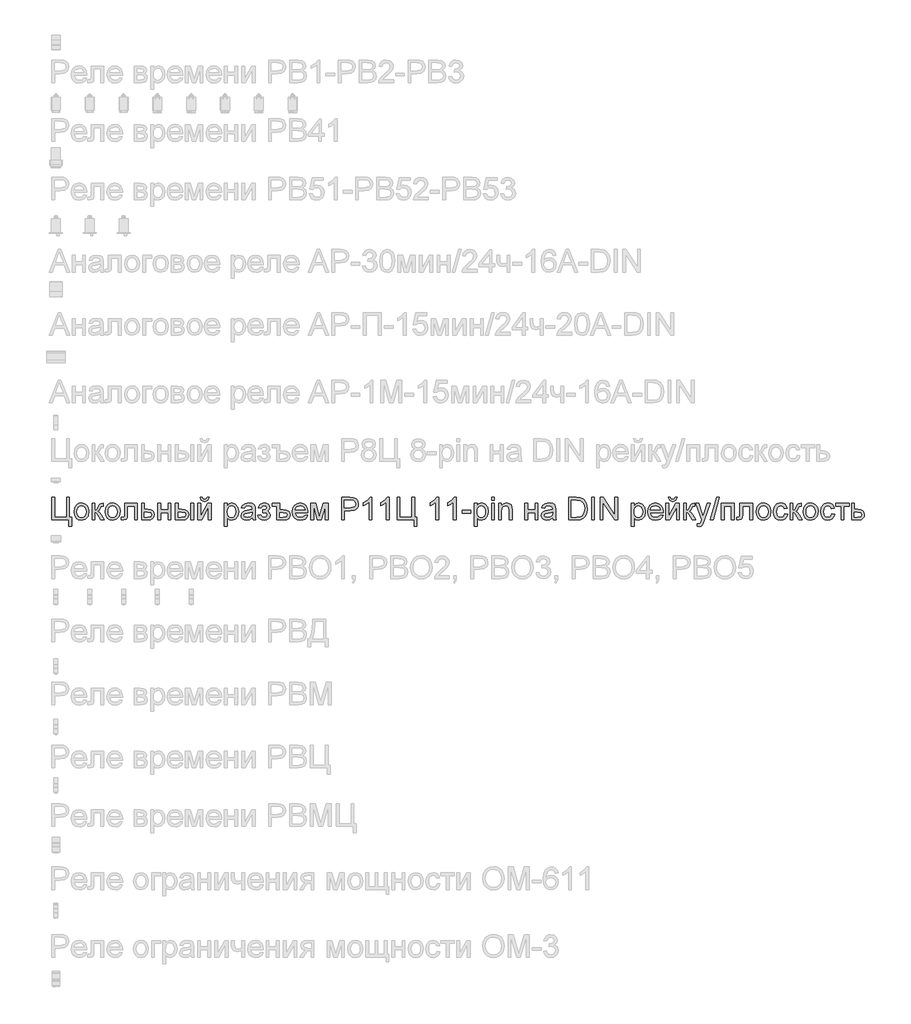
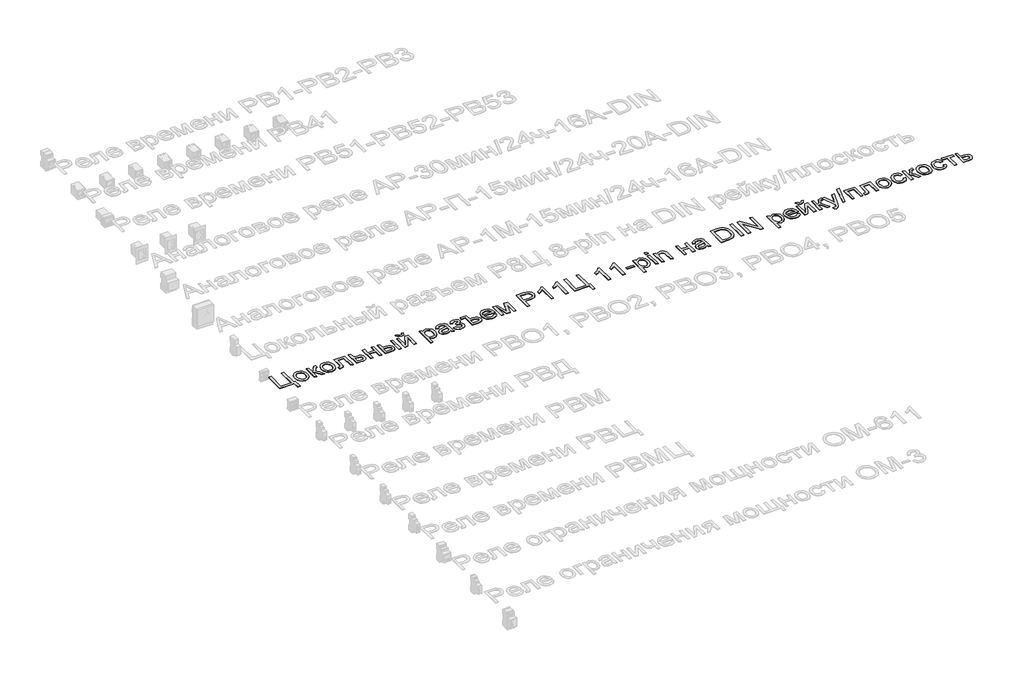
# One storey, part 21 of 34: 1 proxy.
"""IFC4 building model written with IfcOpenShell, lengths in millimetres."""

from ifc_helpers import new_model, si_unit, frame, origin, place, context, project, spatial, polyline, outline, extrude, element, save

model = new_model("IFC4")

# Units and contexts
model_context = context("Model", 3, world=origin())
ifc_project = project(units=[si_unit("LENGTHUNIT", "METRE", prefix="MILLI")], contexts=[model_context])

# Site, building, storey
site = spatial("IfcSite", under=ifc_project)
building = spatial("IfcBuilding", under=site)
storey = spatial("IfcBuildingStorey", under=building, Name="Этаж 01", Elevation=0.0)

# Proxy
placement = place(None, origin())
element("IfcBuildingElementProxy", 1, Name="Надпись на модели 1", ObjectType="Надпись на модели 1", at=placement, inside=storey, context=model_context, shape_type="SweptSolid", body=[
    extrude(outline(polyline([(-19039.0125911, 14956.6915941), (-19026.4555523, 14956.6915941), (-19026.4555523, 14868.7923228), (-18973.0881375, 14868.7923228), (-18973.0881375, 14956.6915941), (-18960.5310988, 14956.6915941), (-18960.5310988, 14868.7923228), (-18951.1133197, 14868.7923228), (-18951.1133197, 14827.9819468), (-18963.6703585, 14827.9819468), (-18963.6703585, 14856.235284), (-19039.0125911, 14856.235284), (-19039.0125911, 14956.6915941)])), frame((0.0, 0.0, 40.0), z_axis=(0.0, 0.0, 1.0), x_axis=(1.0, 0.0, 0.0)), (0.0, 0.0, 1.0), 2.0),
    extrude(outline(polyline([(-18940.1259108, 14893.1215854), (-18937.4097154, 14910.9086798), (-18929.2611292, 14923.4105363), (-18919.1934252, 14929.5357715), (-18907.1391585, 14931.5775166), (-18893.9475233, 14929.0912475), (-18883.4107699, 14921.63244), (-18876.5037854, 14909.7897054), (-18874.2014572, 14894.151655), (-18878.2726847, 14871.8089551), (-18890.1307476, 14859.1660772), (-18907.1391585, 14854.6656541), (-18920.4902093, 14857.1427262), (-18931.0147, 14864.5739426), (-18937.8481081, 14876.6649975), (-18940.1259108, 14893.1215854)]), holes=[polyline([(-18927.568872, 14893.1461108), (-18926.1157381, 14881.7816229), (-18921.7563365, 14873.6851533), (-18915.1957742, 14868.838308), (-18907.1391585, 14867.2226929), (-18899.119331, 14868.8475051), (-18892.5710315, 14873.7219415), (-18888.2116299, 14881.92571), (-18886.758496, 14893.5385183), (-18888.2208269, 14904.5719125), (-18892.6078197, 14912.5580175), (-18899.1653163, 14917.4048627), (-18907.1391585, 14919.0204778), (-18915.1957742, 14917.4109941), (-18921.7563365, 14912.5825429), (-18926.1157381, 14904.5044674), (-18927.568872, 14893.1461108)])]), frame((0.0, 0.0, 40.0), z_axis=(0.0, 0.0, 1.0), x_axis=(1.0, 0.0, 0.0)), (0.0, 0.0, 1.0), 2.0),
    extrude(outline(polyline([(-18860.0747886, 14930.0078868), (-18847.5177499, 14930.0078868), (-18847.5177499, 14898.6152898), (-18839.1055149, 14900.8716327), (-18832.2138589, 14914.0172827), (-18826.4871625, 14925.3603109), (-18821.4349164, 14929.0513936), (-18812.2501293, 14930.0078868), (-18809.8466335, 14930.0078868), (-18809.8466335, 14917.3772716), (-18813.2311479, 14917.450848), (-18819.3625145, 14916.1264728), (-18823.6789966, 14907.8613906), (-18828.7435054, 14898.9218582), (-18835.8436279, 14894.5440624), (-18827.9219022, 14889.6573633), (-18820.1473294, 14879.3627988), (-18806.7073739, 14856.235284), (-18820.9811953, 14856.235284), (-18834.1513707, 14878.8722894), (-18840.7732466, 14888.449484), (-18847.5177499, 14890.7671406), (-18847.5177499, 14856.235284), (-18860.0747886, 14856.235284), (-18860.0747886, 14930.0078868)])), frame((0.0, 0.0, 40.0), z_axis=(0.0, 0.0, 1.0), x_axis=(1.0, 0.0, 0.0)), (0.0, 0.0, 1.0), 2.0),
    extrude(outline(polyline([(-18801.9984843, 14893.1215854), (-18799.2822889, 14910.9086798), (-18791.1337027, 14923.4105363), (-18781.0659988, 14929.5357715), (-18769.0117321, 14931.5775166), (-18755.8200969, 14929.0912475), (-18745.2833434, 14921.63244), (-18738.3763589, 14909.7897054), (-18736.0740308, 14894.151655), (-18740.1452582, 14871.8089551), (-18752.0033212, 14859.1660772), (-18769.0117321, 14854.6656541), (-18782.3627828, 14857.1427262), (-18792.8872736, 14864.5739426), (-18799.7206816, 14876.6649975), (-18801.9984843, 14893.1215854)]), holes=[polyline([(-18789.4414455, 14893.1461108), (-18787.9883117, 14881.7816229), (-18783.62891, 14873.6851533), (-18777.0683478, 14868.838308), (-18769.0117321, 14867.2226929), (-18760.9919046, 14868.8475051), (-18754.4436051, 14873.7219415), (-18750.0842034, 14881.92571), (-18748.6310696, 14893.5385183), (-18750.0934005, 14904.5719125), (-18754.4803933, 14912.5580175), (-18761.0378898, 14917.4048627), (-18769.0117321, 14919.0204778), (-18777.0683478, 14917.4109941), (-18783.62891, 14912.5825429), (-18787.9883117, 14904.5044674), (-18789.4414455, 14893.1461108)])]), frame((0.0, 0.0, 40.0), z_axis=(0.0, 0.0, 1.0), x_axis=(1.0, 0.0, 0.0)), (0.0, 0.0, 1.0), 2.0),
    extrude(outline(polyline([(-18715.6688428, 14930.0078868), (-18659.1621683, 14930.0078868), (-18659.1621683, 14856.3088604), (-18671.7192071, 14856.3088604), (-18671.7192071, 14917.450848), (-18703.111804, 14917.450848), (-18703.111804, 14882.2568038), (-18703.9579326, 14866.0209451), (-18708.6055085, 14859.1660772), (-18719.5929174, 14856.235284), (-18729.7955114, 14856.8729461), (-18729.7955114, 14868.7923228), (-18724.1791796, 14868.7923228), (-18718.5015341, 14869.564875), (-18716.2329285, 14872.0174216), (-18715.6688428, 14882.9680423), (-18715.6688428, 14930.0078868)])), frame((0.0, 0.0, 40.0), z_axis=(0.0, 0.0, 1.0), x_axis=(1.0, 0.0, 0.0)), (0.0, 0.0, 1.0), 2.0),
    extrude(outline(polyline([(-18640.3266102, 14930.0078868), (-18627.7695714, 14930.0078868), (-18627.7695714, 14903.3241794), (-18613.2995463, 14903.3241794), (-18600.7547702, 14901.7514838), (-18591.4718812, 14897.0333973), (-18585.7329221, 14889.5500643), (-18583.8199357, 14879.6816298), (-18585.4478135, 14870.6961121), (-18590.331447, 14863.1146773), (-18598.7957986, 14857.9551323), (-18611.1658307, 14856.235284), (-18640.3266102, 14856.235284), (-18640.3266102, 14930.0078868)]), holes=[polyline([(-18627.7695714, 14868.7923228), (-18616.0463985, 14868.7923228), (-18600.901923, 14871.4288104), (-18596.3769745, 14879.6571044), (-18599.7247006, 14887.3826263), (-18614.550345, 14890.7671406), (-18627.7695714, 14890.7671406), (-18627.7695714, 14868.7923228)])]), frame((0.0, 0.0, 40.0), z_axis=(0.0, 0.0, 1.0), x_axis=(1.0, 0.0, 0.0)), (0.0, 0.0, 1.0), 2.0),
    extrude(outline(polyline([(-18568.1236373, 14930.0078868), (-18555.5665985, 14930.0078868), (-18555.5665985, 14901.7545495), (-18522.6043717, 14901.7545495), (-18522.6043717, 14930.0078868), (-18510.0473329, 14930.0078868), (-18510.0473329, 14856.235284), (-18522.6043717, 14856.235284), (-18522.6043717, 14889.1975108), (-18555.5665985, 14889.1975108), (-18555.5665985, 14856.235284), (-18568.1236373, 14856.235284), (-18568.1236373, 14930.0078868)])), frame((0.0, 0.0, 40.0), z_axis=(0.0, 0.0, 1.0), x_axis=(1.0, 0.0, 0.0)), (0.0, 0.0, 1.0), 2.0),
    extrude(outline(polyline([(-18491.2117748, 14930.0078868), (-18478.654736, 14930.0078868), (-18478.654736, 14903.3241794), (-18463.1301158, 14903.3241794), (-18449.7116201, 14901.7514838), (-18439.7696091, 14897.0333973), (-18433.6167828, 14889.5500643), (-18431.5658406, 14879.6816298), (-18433.285689, 14870.6961121), (-18438.445234, 14863.1146773), (-18447.3817008, 14857.9551323), (-18460.4323145, 14856.235284), (-18491.2117748, 14856.235284), (-18491.2117748, 14930.0078868)]), holes=[polyline([(-18478.654736, 14868.7923228), (-18465.7543407, 14868.7923228), (-18449.1015491, 14871.4288104), (-18444.1228794, 14879.6571044), (-18447.8139621, 14887.3826263), (-18464.1111345, 14890.7671406), (-18478.654736, 14890.7671406), (-18478.654736, 14868.7923228)])]), frame((0.0, 0.0, 40.0), z_axis=(0.0, 0.0, 1.0), x_axis=(1.0, 0.0, 0.0)), (0.0, 0.0, 1.0), 2.0),
    extrude(outline(polyline([(-18422.1480616, 14930.0078868), (-18409.5910228, 14930.0078868), (-18409.5910228, 14856.235284), (-18422.1480616, 14856.235284), (-18422.1480616, 14930.0078868)])), frame((0.0, 0.0, 40.0), z_axis=(0.0, 0.0, 1.0), x_axis=(1.0, 0.0, 0.0)), (0.0, 0.0, 1.0), 2.0),
    extrude(outline(polyline([(-18349.9450886, 14956.6915941), (-18340.5273096, 14956.6915941), (-18346.621888, 14942.7243411), (-18360.1476826, 14937.856036), (-18374.7893861, 14942.6875529), (-18381.3376856, 14956.6915941), (-18371.9199065, 14956.6915941), (-18368.3882393, 14949.6159971), (-18361.2758541, 14947.2738151), (-18353.4767558, 14949.5424207), (-18349.9450886, 14956.6915941)])), frame((0.0, 0.0, 40.0), z_axis=(0.0, 0.0, 1.0), x_axis=(1.0, 0.0, 0.0)), (0.0, 0.0, 1.0), 2.0),
    extrude(outline(polyline([(-18390.7554646, 14930.0078868), (-18378.1984259, 14930.0078868), (-18378.1984259, 14873.746467), (-18347.3453892, 14930.0078868), (-18331.1095305, 14930.0078868), (-18331.1095305, 14856.235284), (-18343.6665693, 14856.235284), (-18343.6665693, 14912.1533473), (-18374.3234022, 14856.235284), (-18390.7554646, 14856.235284), (-18390.7554646, 14930.0078868)])), frame((0.0, 0.0, 40.0), z_axis=(0.0, 0.0, 1.0), x_axis=(1.0, 0.0, 0.0)), (0.0, 0.0, 1.0), 2.0),
    extrude(outline(polyline([(-18273.0332262, 14827.9819468), (-18273.0332262, 14930.0078868), (-18260.4761874, 14930.0078868), (-18260.4761874, 14917.6961027), (-18251.7941723, 14928.1071631), (-18240.0709994, 14931.5775166), (-18224.1539718, 14926.7214743), (-18213.755174, 14913.036264), (-18210.2480323, 14893.6856711), (-18214.2088952, 14873.3417968), (-18225.7113389, 14859.4849083), (-18241.5915783, 14854.6656541), (-18252.5176736, 14857.890753), (-18260.4761874, 14866.0454705), (-18260.4761874, 14827.9819468), (-18273.0332262, 14827.9819468)]), holes=[polyline([(-18260.4761874, 14892.5329742), (-18259.1180897, 14881.2757851), (-18255.0437966, 14873.4031104), (-18249.0319917, 14868.7677973), (-18241.8613585, 14867.2226929), (-18234.5742293, 14868.8229796), (-18228.4091402, 14873.6238396), (-18224.2060884, 14881.7846886), (-18222.8050711, 14893.4649419), (-18224.1723659, 14904.6608173), (-18228.2742501, 14912.6438566), (-18234.276858, 14917.4263225), (-18241.3463237, 14919.0204778), (-18248.4433805, 14917.325155), (-18254.6759146, 14912.2391864), (-18259.0261192, 14903.9219876), (-18260.4761874, 14892.5329742)])]), frame((0.0, 0.0, 40.0), z_axis=(0.0, 0.0, 1.0), x_axis=(1.0, 0.0, 0.0)), (0.0, 0.0, 1.0), 2.0),
    extrude(outline(polyline([(-18149.0324683, 14865.6530631), (-18161.2093624, 14857.1427262), (-18174.6615807, 14854.6656541), (-18185.1554146, 14856.1555762), (-18192.8962649, 14860.6253425), (-18197.6695338, 14867.4127653), (-18199.2606234, 14875.8556571), (-18196.8571277, 14885.7884709), (-18190.5418201, 14892.998958), (-18181.7494405, 14897.1192364), (-18170.8846589, 14899.0076973), (-18149.1060447, 14903.3241794), (-18149.0324683, 14906.1200825), (-18152.4905591, 14915.3907088), (-18166.3719731, 14919.0204778), (-18179.0761646, 14916.6047194), (-18185.1339548, 14908.0330689), (-18197.6909936, 14909.6026988), (-18192.2586028, 14921.8654319), (-18181.3202448, 14929.0513936), (-18164.7532923, 14931.5775166), (-18149.5352404, 14929.3456992), (-18140.9390645, 14923.7416301), (-18137.0885662, 14915.2190306), (-18136.4754296, 14904.2316216), (-18136.4754296, 14888.6088996), (-18135.8377675, 14866.7934973), (-18133.3361699, 14856.235284), (-18145.8932087, 14856.235284), (-18149.0324683, 14865.6530631)]), holes=[polyline([(-18149.0324683, 14890.7671406), (-18169.2905035, 14886.9166424), (-18180.0939715, 14884.8810287), (-18184.986802, 14881.5700907), (-18186.7035847, 14876.7385739), (-18182.963451, 14869.9450197), (-18171.9883048, 14867.2226929), (-18159.2841133, 14870.2270625), (-18151.0926075, 14877.4988633), (-18149.1060447, 14887.210948), (-18149.0324683, 14890.7671406)])]), frame((0.0, 0.0, 40.0), z_axis=(0.0, 0.0, 1.0), x_axis=(1.0, 0.0, 0.0)), (0.0, 0.0, 1.0), 2.0),
    extrude(outline(polyline([(-18101.943573, 14889.1975108), (-18101.943573, 14901.7545495), (-18092.0352846, 14902.2450589), (-18087.0320894, 14904.857021), (-18084.6776447, 14910.3139373), (-18087.8291671, 14916.6537703), (-18095.9593592, 14919.0204778), (-18104.3593314, 14916.6660331), (-18109.7917222, 14909.6026988), (-18123.9183908, 14911.1723286), (-18114.4760863, 14926.4762196), (-18097.2346834, 14931.5775166), (-18086.7377838, 14930.0232152), (-18078.7915327, 14925.3603109), (-18073.7883376, 14918.5391656), (-18072.1206059, 14910.510141), (-18074.4934448, 14902.7110427), (-18081.6119614, 14896.677778), (-18073.310091, 14888.8541542), (-18070.550976, 14877.5969652), (-18072.3014812, 14868.3539301), (-18077.5529967, 14861.0300127), (-18085.9499032, 14856.2567438), (-18097.1365816, 14854.6656541), (-18108.0780052, 14856.1371821), (-18116.4503863, 14860.5517661), (-18122.2537248, 14867.909406), (-18125.4880207, 14878.2101018), (-18111.361352, 14879.7797317), (-18105.6959693, 14870.5091054), (-18095.9348337, 14867.2226929), (-18086.7623093, 14870.3742153), (-18083.1080148, 14878.430831), (-18085.3766204, 14885.0281815), (-18090.2081373, 14888.5598486), (-18099.4910263, 14889.2710872), (-18101.943573, 14889.1975108)])), frame((0.0, 0.0, 40.0), z_axis=(0.0, 0.0, 1.0), x_axis=(1.0, 0.0, 0.0)), (0.0, 0.0, 1.0), 2.0),
    extrude(outline(polyline([(-18061.133197, 14930.0078868), (-18028.1709702, 14930.0078868), (-18028.1709702, 14901.7545495), (-18012.5972991, 14901.7545495), (-17998.3112149, 14900.0929492), (-17988.562342, 14895.1081482), (-17982.9521416, 14887.71372), (-17981.0820748, 14878.8232385), (-17982.9030907, 14869.7457503), (-17988.3661383, 14862.5260661), (-17997.3853786, 14857.8079795), (-18009.8749723, 14856.235284), (-18040.728009, 14856.235284), (-18040.728009, 14917.450848), (-18061.133197, 14917.450848), (-18061.133197, 14930.0078868)]), holes=[polyline([(-18028.1709702, 14868.7923228), (-18015.2460494, 14868.7923228), (-17998.5564696, 14871.2080812), (-17993.6391136, 14878.9703913), (-17997.8452311, 14886.5242349), (-18013.6028432, 14889.1975108), (-18028.1709702, 14889.1975108), (-18028.1709702, 14868.7923228)])]), frame((0.0, 0.0, 40.0), z_axis=(0.0, 0.0, 1.0), x_axis=(1.0, 0.0, 0.0)), (0.0, 0.0, 1.0), 2.0),
    extrude(outline(polyline([(-17915.3047741, 14878.2101018), (-17902.99299, 14876.640472), (-17907.4290337, 14867.3637143), (-17914.5076964, 14860.4291387), (-17924.0695626, 14856.1065253), (-17935.9552167, 14854.6656541), (-17950.6888906, 14857.1519233), (-17962.0257875, 14864.6107308), (-17969.2546687, 14876.5576985), (-17971.6642957, 14892.5084487), (-17969.2301432, 14908.9956935), (-17961.9276856, 14921.3258717), (-17950.7440729, 14929.0146054), (-17936.6664553, 14931.5775166), (-17923.0272303, 14929.0207367), (-17912.1287262, 14921.3503971), (-17904.9826184, 14909.0447444), (-17902.6005825, 14892.5820251), (-17902.6741589, 14889.1975108), (-17959.107257, 14889.1975108), (-17956.9336875, 14879.7981258), (-17951.8845071, 14872.8880756), (-17944.5973779, 14868.6390386), (-17935.7099621, 14867.2226929), (-17923.398178, 14869.8469178), (-17915.3047741, 14878.2101018)]), holes=[polyline([(-17959.107257, 14901.7545495), (-17915.1576213, 14901.7545495), (-17920.1853419, 14913.1343659), (-17927.5061936, 14917.5489499), (-17936.7155062, 14919.0204778), (-17952.1788127, 14914.323851), (-17957.0440521, 14908.8332123), (-17959.107257, 14901.7545495)])]), frame((0.0, 0.0, 40.0), z_axis=(0.0, 0.0, 1.0), x_axis=(1.0, 0.0, 0.0)), (0.0, 0.0, 1.0), 2.0),
    extrude(outline(polyline([(-17890.0435437, 14930.0078868), (-17868.4366079, 14930.0078868), (-17851.7838162, 14870.9505638), (-17833.8311749, 14930.0078868), (-17813.1316813, 14930.0078868), (-17813.1316813, 14856.235284), (-17825.6887201, 14856.235284), (-17825.6887201, 14915.6359635), (-17843.7394633, 14856.235284), (-17860.2205767, 14856.235284), (-17877.486505, 14918.4809176), (-17877.486505, 14856.235284), (-17890.0435437, 14856.235284), (-17890.0435437, 14930.0078868)])), frame((0.0, 0.0, 40.0), z_axis=(0.0, 0.0, 1.0), x_axis=(1.0, 0.0, 0.0)), (0.0, 0.0, 1.0), 2.0),
    extrude(outline(polyline([(-17753.4857471, 14856.235284), (-17753.4857471, 14956.6915941), (-17716.2560892, 14956.6915941), (-17701.2465038, 14955.735101), (-17689.0450843, 14951.0384742), (-17681.1356214, 14941.3263895), (-17678.1435145, 14927.6289165), (-17680.1637998, 14915.7892476), (-17686.2246557, 14905.9238788), (-17697.5584868, 14899.2652147), (-17715.3976979, 14897.04566), (-17740.9287084, 14897.04566), (-17740.9287084, 14856.235284), (-17753.4857471, 14856.235284)]), holes=[polyline([(-17740.9287084, 14909.6026988), (-17714.6619339, 14909.6026988), (-17696.1697323, 14914.2134864), (-17692.067848, 14919.7623732), (-17690.7005533, 14927.1874581), (-17693.9256521, 14937.5862559), (-17702.3992007, 14943.2761641), (-17714.9562395, 14944.1345554), (-17740.9287084, 14944.1345554), (-17740.9287084, 14909.6026988)])]), frame((0.0, 0.0, 40.0), z_axis=(0.0, 0.0, 1.0), x_axis=(1.0, 0.0, 0.0)), (0.0, 0.0, 1.0), 2.0),
    extrude(outline(polyline([(-17618.4975804, 14856.235284), (-17631.0546191, 14856.235284), (-17631.0546191, 14934.5205726), (-17642.9494703, 14926.0470239), (-17656.1686967, 14919.7071909), (-17656.1686967, 14931.5775166), (-17637.7623342, 14943.325215), (-17626.5909843, 14956.6915941), (-17618.4975804, 14956.6915941), (-17618.4975804, 14856.235284)])), frame((0.0, 0.0, 40.0), z_axis=(0.0, 0.0, 1.0), x_axis=(1.0, 0.0, 0.0)), (0.0, 0.0, 1.0), 2.0),
    extrude(outline(polyline([(-17541.5857179, 14856.235284), (-17554.1427567, 14856.235284), (-17554.1427567, 14934.5205726), (-17566.0376079, 14926.0470239), (-17579.2568342, 14919.7071909), (-17579.2568342, 14931.5775166), (-17560.8504717, 14943.325215), (-17549.6791218, 14956.6915941), (-17541.5857179, 14956.6915941), (-17541.5857179, 14856.235284)])), frame((0.0, 0.0, 40.0), z_axis=(0.0, 0.0, 1.0), x_axis=(1.0, 0.0, 0.0)), (0.0, 0.0, 1.0), 2.0),
    extrude(outline(polyline([(-17507.0538613, 14956.6915941), (-17494.4968225, 14956.6915941), (-17494.4968225, 14868.7923228), (-17441.1294078, 14868.7923228), (-17441.1294078, 14956.6915941), (-17428.572369, 14956.6915941), (-17428.572369, 14868.7923228), (-17419.1545899, 14868.7923228), (-17419.1545899, 14827.9819468), (-17431.7116287, 14827.9819468), (-17431.7116287, 14856.235284), (-17507.0538613, 14856.235284), (-17507.0538613, 14956.6915941)])), frame((0.0, 0.0, 40.0), z_axis=(0.0, 0.0, 1.0), x_axis=(1.0, 0.0, 0.0)), (0.0, 0.0, 1.0), 2.0),
    extrude(outline(polyline([(-17321.8375395, 14856.235284), (-17334.3945782, 14856.235284), (-17334.3945782, 14934.5205726), (-17346.2894294, 14926.0470239), (-17359.5086558, 14919.7071909), (-17359.5086558, 14931.5775166), (-17341.1022933, 14943.325215), (-17329.9309434, 14956.6915941), (-17321.8375395, 14956.6915941), (-17321.8375395, 14856.235284)])), frame((0.0, 0.0, 40.0), z_axis=(0.0, 0.0, 1.0), x_axis=(1.0, 0.0, 0.0)), (0.0, 0.0, 1.0), 2.0),
    extrude(outline(polyline([(-17244.925677, 14856.235284), (-17257.4827158, 14856.235284), (-17257.4827158, 14934.5205726), (-17269.3775669, 14926.0470239), (-17282.5967933, 14919.7071909), (-17282.5967933, 14931.5775166), (-17264.1904308, 14943.325215), (-17253.0190809, 14956.6915941), (-17244.925677, 14956.6915941), (-17244.925677, 14856.235284)])), frame((0.0, 0.0, 40.0), z_axis=(0.0, 0.0, 1.0), x_axis=(1.0, 0.0, 0.0)), (0.0, 0.0, 1.0), 2.0),
    extrude(outline(polyline([(-17218.2419696, 14886.0582511), (-17218.2419696, 14898.6152898), (-17179.0012235, 14898.6152898), (-17179.0012235, 14886.0582511), (-17218.2419696, 14886.0582511)])), frame((0.0, 0.0, 40.0), z_axis=(0.0, 0.0, 1.0), x_axis=(1.0, 0.0, 0.0)), (0.0, 0.0, 1.0), 2.0),
    extrude(outline(polyline([(-17164.8745548, 14827.9819468), (-17164.8745548, 14930.0078868), (-17152.3175161, 14930.0078868), (-17152.3175161, 14917.6961027), (-17143.635501, 14928.1071631), (-17131.9123281, 14931.5775166), (-17115.9953004, 14926.7214743), (-17105.5965027, 14913.036264), (-17102.089361, 14893.6856711), (-17106.0502238, 14873.3417968), (-17117.5526675, 14859.4849083), (-17133.432907, 14854.6656541), (-17144.3590023, 14857.890753), (-17152.3175161, 14866.0454705), (-17152.3175161, 14827.9819468), (-17164.8745548, 14827.9819468)]), holes=[polyline([(-17152.3175161, 14892.5329742), (-17150.9594184, 14881.2757851), (-17146.8851253, 14873.4031104), (-17140.8733203, 14868.7677973), (-17133.7026871, 14867.2226929), (-17126.4155579, 14868.8229796), (-17120.2504688, 14873.6238396), (-17116.047417, 14881.7846886), (-17114.6463998, 14893.4649419), (-17116.0136945, 14904.6608173), (-17120.1155788, 14912.6438566), (-17126.1181867, 14917.4263225), (-17133.1876523, 14919.0204778), (-17140.2847092, 14917.325155), (-17146.5172433, 14912.2391864), (-17150.8674479, 14903.9219876), (-17152.3175161, 14892.5329742)])]), frame((0.0, 0.0, 40.0), z_axis=(0.0, 0.0, 1.0), x_axis=(1.0, 0.0, 0.0)), (0.0, 0.0, 1.0), 2.0),
    extrude(outline(polyline([(-17087.9626924, 14944.1345554), (-17087.9626924, 14956.6915941), (-17075.4056536, 14956.6915941), (-17075.4056536, 14944.1345554), (-17087.9626924, 14944.1345554)])), frame((0.0, 0.0, 40.0), z_axis=(0.0, 0.0, 1.0), x_axis=(1.0, 0.0, 0.0)), (0.0, 0.0, 1.0), 2.0),
    extrude(outline(polyline([(-17087.9626924, 14856.235284), (-17087.9626924, 14930.0078868), (-17075.4056536, 14930.0078868), (-17075.4056536, 14856.235284), (-17087.9626924, 14856.235284)])), frame((0.0, 0.0, 40.0), z_axis=(0.0, 0.0, 1.0), x_axis=(1.0, 0.0, 0.0)), (0.0, 0.0, 1.0), 2.0),
    extrude(outline(polyline([(-17056.5700955, 14856.235284), (-17056.5700955, 14930.0078868), (-17044.0130567, 14930.0078868), (-17044.0130567, 14919.7071909), (-17034.4113366, 14928.6099352), (-17021.3024749, 14931.5775166), (-17009.4444119, 14929.1862836), (-17001.351008, 14922.9077643), (-16997.5863489, 14913.6739262), (-16996.9241613, 14901.5338203), (-16996.9241613, 14856.235284), (-17009.4812001, 14856.235284), (-17009.4812001, 14899.8415632), (-17010.9282026, 14910.9515994), (-17016.0417623, 14916.8254486), (-17024.6624638, 14919.0204778), (-17038.2863603, 14914.0908591), (-17042.5813826, 14906.947817), (-17044.0130567, 14895.3779283), (-17044.0130567, 14856.235284), (-17056.5700955, 14856.235284)])), frame((0.0, 0.0, 40.0), z_axis=(0.0, 0.0, 1.0), x_axis=(1.0, 0.0, 0.0)), (0.0, 0.0, 1.0), 2.0),
    extrude(outline(polyline([(-16940.4174869, 14930.0078868), (-16927.8604481, 14930.0078868), (-16927.8604481, 14901.7545495), (-16894.8982213, 14901.7545495), (-16894.8982213, 14930.0078868), (-16882.3411826, 14930.0078868), (-16882.3411826, 14856.235284), (-16894.8982213, 14856.235284), (-16894.8982213, 14889.1975108), (-16927.8604481, 14889.1975108), (-16927.8604481, 14856.235284), (-16940.4174869, 14856.235284), (-16940.4174869, 14930.0078868)])), frame((0.0, 0.0, 40.0), z_axis=(0.0, 0.0, 1.0), x_axis=(1.0, 0.0, 0.0)), (0.0, 0.0, 1.0), 2.0),
    extrude(outline(polyline([(-16816.416729, 14865.6530631), (-16828.5936231, 14857.1427262), (-16842.0458413, 14854.6656541), (-16852.5396753, 14856.1555762), (-16860.2805256, 14860.6253425), (-16865.0537945, 14867.4127653), (-16866.6448841, 14875.8556571), (-16864.2413884, 14885.7884709), (-16857.9260808, 14892.998958), (-16849.1337011, 14897.1192364), (-16838.2689195, 14899.0076973), (-16816.4903054, 14903.3241794), (-16816.416729, 14906.1200825), (-16819.8748198, 14915.3907088), (-16833.7562337, 14919.0204778), (-16846.4604253, 14916.6047194), (-16852.5182155, 14908.0330689), (-16865.0752542, 14909.6026988), (-16859.6428635, 14921.8654319), (-16848.7045055, 14929.0513936), (-16832.1375529, 14931.5775166), (-16816.9195011, 14929.3456992), (-16808.3233251, 14923.7416301), (-16804.4728269, 14915.2190306), (-16803.8596902, 14904.2316216), (-16803.8596902, 14888.6088996), (-16803.2220281, 14866.7934973), (-16800.7204306, 14856.235284), (-16813.2774693, 14856.235284), (-16816.416729, 14865.6530631)]), holes=[polyline([(-16816.416729, 14890.7671406), (-16836.6747642, 14886.9166424), (-16847.4782321, 14884.8810287), (-16852.3710627, 14881.5700907), (-16854.0878453, 14876.7385739), (-16850.3477117, 14869.9450197), (-16839.3725655, 14867.2226929), (-16826.6683739, 14870.2270625), (-16818.4768682, 14877.4988633), (-16816.4903054, 14887.210948), (-16816.416729, 14890.7671406)])]), frame((0.0, 0.0, 40.0), z_axis=(0.0, 0.0, 1.0), x_axis=(1.0, 0.0, 0.0)), (0.0, 0.0, 1.0), 2.0),
    extrude(outline(polyline([(-16745.7833859, 14856.235284), (-16745.7833859, 14956.6915941), (-16711.128902, 14956.6915941), (-16693.2007861, 14955.2445916), (-16678.4364554, 14948.05863), (-16666.5416042, 14930.8908035), (-16662.5930041, 14907.0029993), (-16665.2662799, 14886.7327014), (-16672.1334105, 14872.1032607), (-16681.3059349, 14862.99205), (-16693.3111507, 14857.9520666), (-16709.4611703, 14856.235284), (-16745.7833859, 14856.235284)]), holes=[polyline([(-16733.2263472, 14868.7923228), (-16711.0062747, 14868.7923228), (-16694.8439923, 14870.6072073), (-16685.5243151, 14875.7330297), (-16677.8846324, 14888.2042294), (-16675.1500429, 14907.1992031), (-16676.4897465, 14920.8844133), (-16680.5088573, 14930.9889054), (-16693.5441426, 14942.1234671), (-16711.3496312, 14944.1345554), (-16733.2263472, 14944.1345554), (-16733.2263472, 14868.7923228)])]), frame((0.0, 0.0, 40.0), z_axis=(0.0, 0.0, 1.0), x_axis=(1.0, 0.0, 0.0)), (0.0, 0.0, 1.0), 2.0),
    extrude(outline(polyline([(-16643.7574459, 14856.235284), (-16643.7574459, 14956.6915941), (-16631.2004072, 14956.6915941), (-16631.2004072, 14856.235284), (-16643.7574459, 14856.235284)])), frame((0.0, 0.0, 40.0), z_axis=(0.0, 0.0, 1.0), x_axis=(1.0, 0.0, 0.0)), (0.0, 0.0, 1.0), 2.0),
    extrude(outline(polyline([(-16606.0863296, 14856.235284), (-16606.0863296, 14956.6915941), (-16592.6463741, 14956.6915941), (-16540.1618761, 14877.1064559), (-16540.1618761, 14956.6915941), (-16527.6048373, 14956.6915941), (-16527.6048373, 14856.235284), (-16541.0447929, 14856.235284), (-16593.5292909, 14935.8449477), (-16593.5292909, 14856.235284), (-16606.0863296, 14856.235284)])), frame((0.0, 0.0, 40.0), z_axis=(0.0, 0.0, 1.0), x_axis=(1.0, 0.0, 0.0)), (0.0, 0.0, 1.0), 2.0),
    extrude(outline(polyline([(-16467.9589032, 14827.9819468), (-16467.9589032, 14930.0078868), (-16455.4018644, 14930.0078868), (-16455.4018644, 14917.6961027), (-16446.7198493, 14928.1071631), (-16434.9966764, 14931.5775166), (-16419.0796488, 14926.7214743), (-16408.680851, 14913.036264), (-16405.1737093, 14893.6856711), (-16409.1345722, 14873.3417968), (-16420.6370159, 14859.4849083), (-16436.5172553, 14854.6656541), (-16447.4433506, 14857.890753), (-16455.4018644, 14866.0454705), (-16455.4018644, 14827.9819468), (-16467.9589032, 14827.9819468)]), holes=[polyline([(-16455.4018644, 14892.5329742), (-16454.0437667, 14881.2757851), (-16449.9694736, 14873.4031104), (-16443.9576687, 14868.7677973), (-16436.7870355, 14867.2226929), (-16429.4999063, 14868.8229796), (-16423.3348172, 14873.6238396), (-16419.1317654, 14881.7846886), (-16417.7307481, 14893.4649419), (-16419.0980429, 14904.6608173), (-16423.1999271, 14912.6438566), (-16429.202535, 14917.4263225), (-16436.2720007, 14919.0204778), (-16443.3690575, 14917.325155), (-16449.6015916, 14912.2391864), (-16453.9517962, 14903.9219876), (-16455.4018644, 14892.5329742)])]), frame((0.0, 0.0, 40.0), z_axis=(0.0, 0.0, 1.0), x_axis=(1.0, 0.0, 0.0)), (0.0, 0.0, 1.0), 2.0),
    extrude(outline(polyline([(-16339.3964086, 14878.2101018), (-16327.0846245, 14876.640472), (-16331.5206682, 14867.3637143), (-16338.5993309, 14860.4291387), (-16348.1611971, 14856.1065253), (-16360.0468513, 14854.6656541), (-16374.7805252, 14857.1519233), (-16386.117422, 14864.6107308), (-16393.3463032, 14876.5576985), (-16395.7559303, 14892.5084487), (-16393.3217777, 14908.9956935), (-16386.0193201, 14921.3258717), (-16374.8357075, 14929.0146054), (-16360.7580898, 14931.5775166), (-16347.1188648, 14929.0207367), (-16336.2203607, 14921.3503971), (-16329.074253, 14909.0447444), (-16326.692217, 14892.5820251), (-16326.7657934, 14889.1975108), (-16383.1988915, 14889.1975108), (-16381.025322, 14879.7981258), (-16375.9761417, 14872.8880756), (-16368.6890125, 14868.6390386), (-16359.8015966, 14867.2226929), (-16347.4898125, 14869.8469178), (-16339.3964086, 14878.2101018)]), holes=[polyline([(-16383.1988915, 14901.7545495), (-16339.2492558, 14901.7545495), (-16344.2769764, 14913.1343659), (-16351.5978281, 14917.5489499), (-16360.8071407, 14919.0204778), (-16376.2704473, 14914.323851), (-16381.1356866, 14908.8332123), (-16383.1988915, 14901.7545495)])]), frame((0.0, 0.0, 40.0), z_axis=(0.0, 0.0, 1.0), x_axis=(1.0, 0.0, 0.0)), (0.0, 0.0, 1.0), 2.0),
    extrude(outline(polyline([(-16314.1351783, 14930.0078868), (-16301.5781395, 14930.0078868), (-16301.5781395, 14873.746467), (-16270.7251028, 14930.0078868), (-16254.4892441, 14930.0078868), (-16254.4892441, 14856.235284), (-16267.0462829, 14856.235284), (-16267.0462829, 14912.1533473), (-16297.7031158, 14856.235284), (-16314.1351783, 14856.235284), (-16314.1351783, 14930.0078868)])), frame((0.0, 0.0, 40.0), z_axis=(0.0, 0.0, 1.0), x_axis=(1.0, 0.0, 0.0)), (0.0, 0.0, 1.0), 2.0),
    extrude(outline(polyline([(-16273.3248023, 14956.6915941), (-16263.9070232, 14956.6915941), (-16270.0016016, 14942.7243411), (-16283.5273963, 14937.856036), (-16298.1690997, 14942.6875529), (-16304.7173992, 14956.6915941), (-16295.2996201, 14956.6915941), (-16291.767953, 14949.6159971), (-16284.6555677, 14947.2738151), (-16276.8564694, 14949.5424207), (-16273.3248023, 14956.6915941)])), frame((0.0, 0.0, 40.0), z_axis=(0.0, 0.0, 1.0), x_axis=(1.0, 0.0, 0.0)), (0.0, 0.0, 1.0), 2.0),
    extrude(outline(polyline([(-16174.438122, 14827.9819468), (-16176.0077518, 14840.0730017), (-16169.6311306, 14838.9693557), (-16163.6714422, 14840.3550445), (-16160.0171478, 14844.2178055), (-16156.5835825, 14853.4639063), (-16155.6025638, 14856.5050641), (-16182.2862712, 14930.0078868), (-16169.0425194, 14930.0078868), (-16154.8913253, 14889.050358), (-16149.9617066, 14872.6673464), (-16145.0320878, 14887.1373716), (-16130.4884863, 14930.0078868), (-16117.3428363, 14930.0078868), (-16143.0209996, 14854.4694504), (-16149.6919264, 14838.0864389), (-16156.9759899, 14829.2327455), (-16166.761651, 14826.4123169), (-16174.438122, 14827.9819468)])), frame((0.0, 0.0, 40.0), z_axis=(0.0, 0.0, 1.0), x_axis=(1.0, 0.0, 0.0)), (0.0, 0.0, 1.0), 2.0),
    extrude(outline(polyline([(-16235.653686, 14930.0078868), (-16223.0966472, 14930.0078868), (-16223.0966472, 14898.6152898), (-16214.6844122, 14900.8716327), (-16207.7927562, 14914.0172827), (-16202.0660598, 14925.3603109), (-16197.0138137, 14929.0513936), (-16187.8290266, 14930.0078868), (-16185.4255309, 14930.0078868), (-16185.4255309, 14917.3772716), (-16188.8100452, 14917.450848), (-16194.9414118, 14916.1264728), (-16199.2578939, 14907.8613906), (-16204.3224027, 14898.9218582), (-16211.4225252, 14894.5440624), (-16203.5007996, 14889.6573633), (-16195.7262268, 14879.3627988), (-16182.2862712, 14856.235284), (-16196.5600926, 14856.235284), (-16209.730268, 14878.8722894), (-16216.352144, 14888.449484), (-16223.0966472, 14890.7671406), (-16223.0966472, 14856.235284), (-16235.653686, 14856.235284), (-16235.653686, 14930.0078868)])), frame((0.0, 0.0, 40.0), z_axis=(0.0, 0.0, 1.0), x_axis=(1.0, 0.0, 0.0)), (0.0, 0.0, 1.0), 2.0),
    extrude(outline(polyline([(-16116.3618177, 14856.235284), (-16088.1084804, 14956.6915941), (-16076.777715, 14956.6915941), (-16105.0310522, 14856.235284), (-16116.3618177, 14856.235284)])), frame((0.0, 0.0, 40.0), z_axis=(0.0, 0.0, 1.0), x_axis=(1.0, 0.0, 0.0)), (0.0, 0.0, 1.0), 2.0),
    extrude(outline(polyline([(-16067.7032924, 14930.0078868), (-16011.196618, 14930.0078868), (-16011.196618, 14856.235284), (-16023.7536567, 14856.235284), (-16023.7536567, 14917.450848), (-16055.1462537, 14917.450848), (-16055.1462537, 14856.235284), (-16067.7032924, 14856.235284), (-16067.7032924, 14930.0078868)])), frame((0.0, 0.0, 40.0), z_axis=(0.0, 0.0, 1.0), x_axis=(1.0, 0.0, 0.0)), (0.0, 0.0, 1.0), 2.0),
    extrude(outline(polyline([(-15986.0825404, 14930.0078868), (-15929.575866, 14930.0078868), (-15929.575866, 14856.3088604), (-15942.1329047, 14856.3088604), (-15942.1329047, 14917.450848), (-15973.5255017, 14917.450848), (-15973.5255017, 14882.2568038), (-15974.3716303, 14866.0209451), (-15979.0192061, 14859.1660772), (-15990.0066151, 14856.235284), (-16000.2092091, 14856.8729461), (-16000.2092091, 14868.7923228), (-15994.5928773, 14868.7923228), (-15988.9152318, 14869.564875), (-15986.6466262, 14872.0174216), (-15986.0825404, 14882.9680423), (-15986.0825404, 14930.0078868)])), frame((0.0, 0.0, 40.0), z_axis=(0.0, 0.0, 1.0), x_axis=(1.0, 0.0, 0.0)), (0.0, 0.0, 1.0), 2.0),
    extrude(outline(polyline([(-15913.8795675, 14893.1215854), (-15911.1633721, 14910.9086798), (-15903.0147859, 14923.4105363), (-15892.947082, 14929.5357715), (-15880.8928153, 14931.5775166), (-15867.7011801, 14929.0912475), (-15857.1644266, 14921.63244), (-15850.2574421, 14909.7897054), (-15847.955114, 14894.151655), (-15852.0263414, 14871.8089551), (-15863.8844044, 14859.1660772), (-15880.8928153, 14854.6656541), (-15894.243866, 14857.1427262), (-15904.7683568, 14864.5739426), (-15911.6017648, 14876.6649975), (-15913.8795675, 14893.1215854)]), holes=[polyline([(-15901.3225287, 14893.1461108), (-15899.8693949, 14881.7816229), (-15895.5099932, 14873.6851533), (-15888.949431, 14868.838308), (-15880.8928153, 14867.2226929), (-15872.8729878, 14868.8475051), (-15866.3246883, 14873.7219415), (-15861.9652866, 14881.92571), (-15860.5121527, 14893.5385183), (-15861.9744837, 14904.5719125), (-15866.3614765, 14912.5580175), (-15872.918973, 14917.4048627), (-15880.8928153, 14919.0204778), (-15888.949431, 14917.4109941), (-15895.5099932, 14912.5825429), (-15899.8693949, 14904.5044674), (-15901.3225287, 14893.1461108)])]), frame((0.0, 0.0, 40.0), z_axis=(0.0, 0.0, 1.0), x_axis=(1.0, 0.0, 0.0)), (0.0, 0.0, 1.0), 2.0),
    extrude(outline(polyline([(-15786.73955, 14882.9189914), (-15774.1825112, 14881.3493615), (-15777.6835215, 14870.1810773), (-15784.2624779, 14861.7412512), (-15793.3001122, 14856.4345534), (-15804.1771566, 14854.6656541), (-15817.5343387, 14857.1335292), (-15827.9791216, 14864.5371544), (-15834.7205592, 14876.5515672), (-15836.9677051, 14892.8518052), (-15833.1294696, 14913.7107144), (-15821.4308221, 14927.1138817), (-15804.3488348, 14931.5775166), (-15793.7385049, 14930.044675), (-15785.2557593, 14925.44615), (-15779.1703779, 14918.0271964), (-15775.7521411, 14908.0330689), (-15788.3091798, 14906.4634391), (-15794.1339781, 14915.8689554), (-15804.250733, 14919.0204778), (-15812.3655966, 14917.4692421), (-15818.8065972, 14912.8155349), (-15823.009649, 14904.8079701), (-15824.4106663, 14893.1951618), (-15823.0403059, 14881.4260036), (-15818.9292246, 14873.3908477), (-15812.6047199, 14868.7647316), (-15804.5940895, 14867.2226929), (-15792.760552, 14871.0731911), (-15786.73955, 14882.9189914)])), frame((0.0, 0.0, 40.0), z_axis=(0.0, 0.0, 1.0), x_axis=(1.0, 0.0, 0.0)), (0.0, 0.0, 1.0), 2.0),
    extrude(outline(polyline([(-15763.1951023, 14930.0078868), (-15750.6380635, 14930.0078868), (-15750.6380635, 14898.6152898), (-15742.2258286, 14900.8716327), (-15735.3341725, 14914.0172827), (-15729.6074761, 14925.3603109), (-15724.5552301, 14929.0513936), (-15715.3704429, 14930.0078868), (-15712.9669472, 14930.0078868), (-15712.9669472, 14917.3772716), (-15716.3514616, 14917.450848), (-15722.4828282, 14916.1264728), (-15726.7993102, 14907.8613906), (-15731.863819, 14898.9218582), (-15738.9639415, 14894.5440624), (-15731.0422159, 14889.6573633), (-15723.2676431, 14879.3627988), (-15709.8276875, 14856.235284), (-15724.1015089, 14856.235284), (-15737.2716844, 14878.8722894), (-15743.8935603, 14888.449484), (-15750.6380635, 14890.7671406), (-15750.6380635, 14856.235284), (-15763.1951023, 14856.235284), (-15763.1951023, 14930.0078868)])), frame((0.0, 0.0, 40.0), z_axis=(0.0, 0.0, 1.0), x_axis=(1.0, 0.0, 0.0)), (0.0, 0.0, 1.0), 2.0),
    extrude(outline(polyline([(-15705.118798, 14893.1215854), (-15702.4026026, 14910.9086798), (-15694.2540164, 14923.4105363), (-15684.1863125, 14929.5357715), (-15672.1320458, 14931.5775166), (-15658.9404105, 14929.0912475), (-15648.4036571, 14921.63244), (-15641.4966726, 14909.7897054), (-15639.1943445, 14894.151655), (-15643.2655719, 14871.8089551), (-15655.1236348, 14859.1660772), (-15672.1320458, 14854.6656541), (-15685.4830965, 14857.1427262), (-15696.0075872, 14864.5739426), (-15702.8409953, 14876.6649975), (-15705.118798, 14893.1215854)]), holes=[polyline([(-15692.5617592, 14893.1461108), (-15691.1086253, 14881.7816229), (-15686.7492237, 14873.6851533), (-15680.1886614, 14868.838308), (-15672.1320458, 14867.2226929), (-15664.1122183, 14868.8475051), (-15657.5639187, 14873.7219415), (-15653.2045171, 14881.92571), (-15651.7513832, 14893.5385183), (-15653.2137142, 14904.5719125), (-15657.6007069, 14912.5580175), (-15664.1582035, 14917.4048627), (-15672.1320458, 14919.0204778), (-15680.1886614, 14917.4109941), (-15686.7492237, 14912.5825429), (-15691.1086253, 14904.5044674), (-15692.5617592, 14893.1461108)])]), frame((0.0, 0.0, 40.0), z_axis=(0.0, 0.0, 1.0), x_axis=(1.0, 0.0, 0.0)), (0.0, 0.0, 1.0), 2.0),
    extrude(outline(polyline([(-15577.9787805, 14882.9189914), (-15565.4217417, 14881.3493615), (-15568.922752, 14870.1810773), (-15575.5017084, 14861.7412512), (-15584.5393427, 14856.4345534), (-15595.416387, 14854.6656541), (-15608.7735691, 14857.1335292), (-15619.2183521, 14864.5371544), (-15625.9597897, 14876.5515672), (-15628.2069355, 14892.8518052), (-15624.3687, 14913.7107144), (-15612.6700526, 14927.1138817), (-15595.5880653, 14931.5775166), (-15584.9777354, 14930.044675), (-15576.4949897, 14925.44615), (-15570.4096084, 14918.0271964), (-15566.9913715, 14908.0330689), (-15579.5484103, 14906.4634391), (-15585.3732086, 14915.8689554), (-15595.4899634, 14919.0204778), (-15603.6048271, 14917.4692421), (-15610.0458277, 14912.8155349), (-15614.2488795, 14904.8079701), (-15615.6498968, 14893.1951618), (-15614.2795363, 14881.4260036), (-15610.168455, 14873.3908477), (-15603.8439504, 14868.7647316), (-15595.83332, 14867.2226929), (-15583.9997824, 14871.0731911), (-15577.9787805, 14882.9189914)])), frame((0.0, 0.0, 40.0), z_axis=(0.0, 0.0, 1.0), x_axis=(1.0, 0.0, 0.0)), (0.0, 0.0, 1.0), 2.0),
    extrude(outline(polyline([(-15560.7128521, 14930.0078868), (-15501.066918, 14930.0078868), (-15501.066918, 14917.450848), (-15524.6113657, 14917.450848), (-15524.6113657, 14856.235284), (-15537.1684045, 14856.235284), (-15537.1684045, 14917.450848), (-15560.7128521, 14917.450848), (-15560.7128521, 14930.0078868)])), frame((0.0, 0.0, 40.0), z_axis=(0.0, 0.0, 1.0), x_axis=(1.0, 0.0, 0.0)), (0.0, 0.0, 1.0), 2.0),
    extrude(outline(polyline([(-15490.0795091, 14930.0078868), (-15477.5224703, 14930.0078868), (-15477.5224703, 14903.3241794), (-15463.0524452, 14903.3241794), (-15450.5076691, 14901.7514838), (-15441.2247801, 14897.0333973), (-15435.485821, 14889.5500643), (-15433.5728346, 14879.6816298), (-15435.2007124, 14870.6961121), (-15440.0843459, 14863.1146773), (-15448.5486975, 14857.9551323), (-15460.9187296, 14856.235284), (-15490.0795091, 14856.235284), (-15490.0795091, 14930.0078868)]), holes=[polyline([(-15477.5224703, 14868.7923228), (-15465.7992974, 14868.7923228), (-15450.6548219, 14871.4288104), (-15446.1298734, 14879.6571044), (-15449.4775995, 14887.3826263), (-15464.3032439, 14890.7671406), (-15477.5224703, 14890.7671406), (-15477.5224703, 14868.7923228)])]), frame((0.0, 0.0, 40.0), z_axis=(0.0, 0.0, 1.0), x_axis=(1.0, 0.0, 0.0)), (0.0, 0.0, 1.0), 2.0),
])

save(model, "model.ifc")
